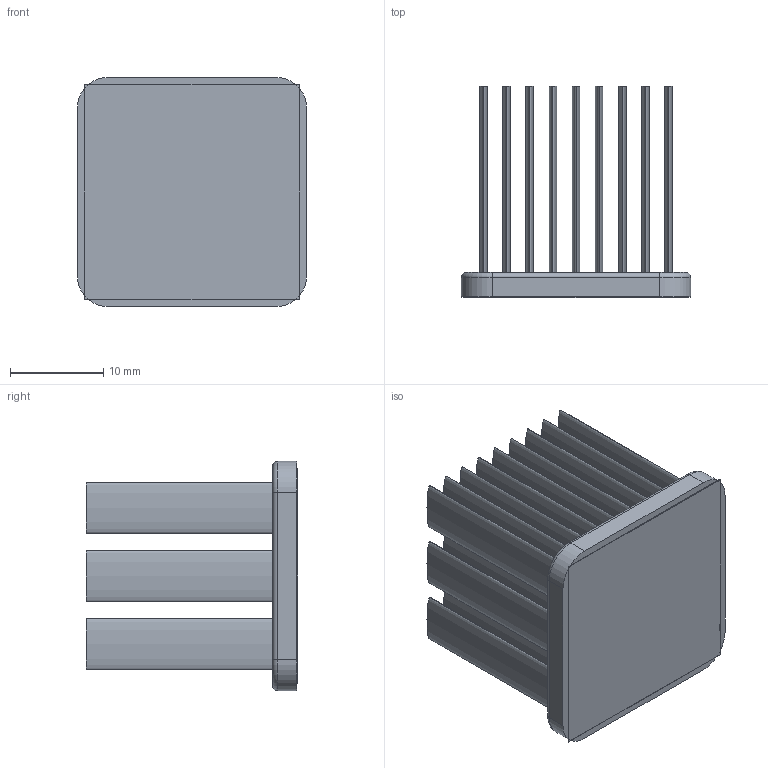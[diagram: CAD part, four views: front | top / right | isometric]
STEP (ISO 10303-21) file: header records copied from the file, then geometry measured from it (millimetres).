
FILE_DESCRIPTION (( 'STEP AP214' ), '1' );
FILE_NAME ('INM25001-23W_2.6 (NONE).STEP', '2023-02-17T17:31:06', ( '' ), ( '' ), 'SwSTEP 2.0', 'SolidWorks 2020', '' );
FILE_SCHEMA (( 'AUTOMOTIVE_DESIGN' ));
Length unit declared in the file: inch
Products named in the file (1): INM25001-23W_2.6 (NONE)
Bounding box: 24.6 x 22.69 x 24.6 mm (x, y, z)
Volume: 3473.2 mm3; surface area: 8559.9 mm2
Topology: 2 solids, 2 shells, 105 faces, 214 edges, 140 vertices
Faces by surface type: bspline 54, plane 39, cylinder 8, torus 4
Entity records: 4282 total; most frequent: CARTESIAN_POINT 1162, ORIENTED_EDGE 428, DIRECTION 230, EDGE_CURVE 214, VERTEX_POINT 140, EDGE_LOOP 132, UNCERTAINTY_MEASURE_WITH_UNIT 109, DIMENSIONAL_EXPONENTS 109
